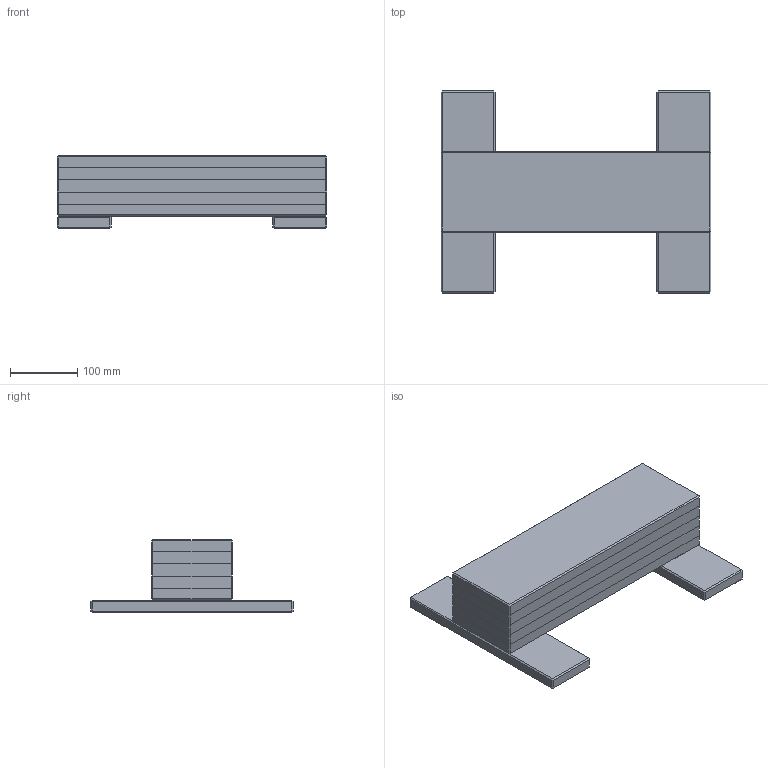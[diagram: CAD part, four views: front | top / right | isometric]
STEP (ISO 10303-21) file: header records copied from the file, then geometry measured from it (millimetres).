
FILE_DESCRIPTION(('Open CASCADE Model'),'2;1');
FILE_NAME('Open CASCADE Shape Model','2026-09-27T15:56:06',('Author'),( 'Open CASCADE'),'Open CASCADE STEP processor 7.9','Open CASCADE 7.9' ,'Unknown');
FILE_SCHEMA(('AUTOMOTIVE_DESIGN { 1 0 10303 214 1 1 1 1 }'));
Length unit declared in the file: millimetre
Products named in the file (8): balance-trainer-quintuple; foot-1; foot-2; rail-1; rail-2; rail-3; rail-4; rail-5
Assembly tree (7 placements, depth 2):
  balance-trainer-quintuple
    foot-1
    foot-2
    rail-1
    rail-2
    rail-3
    rail-4
    rail-5
Bounding box: 400 x 300 x 108 mm (x, y, z)
Volume: 5172880 mm3; surface area: 690270.9 mm2
Topology: 7 solids, 7 shells, 118 faces, 240 edges, 136 vertices
Faces by surface type: plane 118
Entity records: 6230 total; most frequent: CARTESIAN_POINT 982, DIRECTION 972, LINE 720, VECTOR 720, ORIENTED_EDGE 480, PCURVE 480, DEFINITIONAL_REPRESENTATION 480, EDGE_CURVE 240
